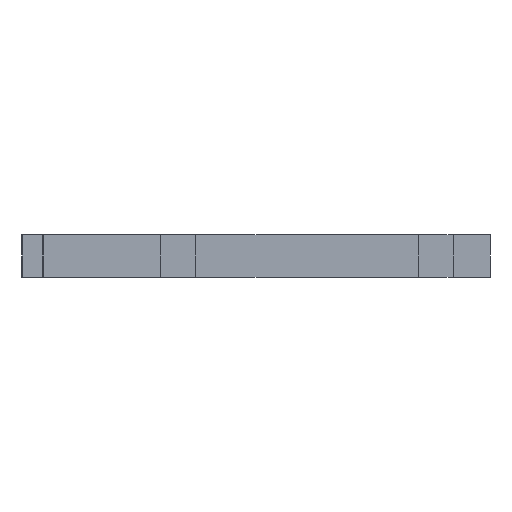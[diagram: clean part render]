
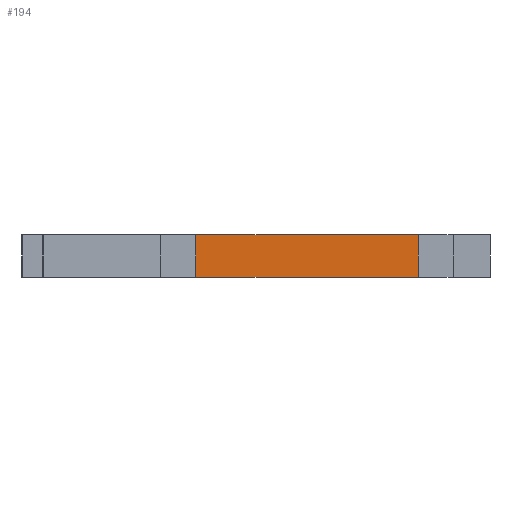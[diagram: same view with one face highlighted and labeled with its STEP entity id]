
A CAD part, left-side view. The second image highlights one B-rep face of the part: STEP entity #194.
In plain terms, the highlighted planar face has unit normal (-1, 0, 0).
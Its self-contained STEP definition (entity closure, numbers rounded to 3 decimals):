
#42 = CARTESIAN_POINT ( 'NONE',  ( -272., -92.3, 0. ) ) ;
#55 = CARTESIAN_POINT ( 'NONE',  ( -272., -92.3, 0. ) ) ;
#92 = CARTESIAN_POINT ( 'NONE',  ( -272., -40.5, 10. ) ) ;
#94 = ORIENTED_EDGE ( 'NONE', *, *, #1361, .F. ) ;
#183 = DIRECTION ( 'NONE',  ( 0., 0., -1. ) ) ;
#186 = DIRECTION ( 'NONE',  ( 1., 0., 0. ) ) ;
#194 = ADVANCED_FACE ( 'NONE', ( #777 ), #588, .F. ) ;
#204 = ORIENTED_EDGE ( 'NONE', *, *, #1262, .T. ) ;
#215 = LINE ( 'NONE', #584, #1675 ) ;
#305 = VERTEX_POINT ( 'NONE', #1258 ) ;
#363 = LINE ( 'NONE', #518, #1322 ) ;
#365 = LINE ( 'NONE', #593, #1323 ) ;
#408 = AXIS2_PLACEMENT_3D ( 'NONE', #729, #186, #1535 ) ;
#518 = CARTESIAN_POINT ( 'NONE',  ( -272., -92.3, 10. ) ) ;
#584 = CARTESIAN_POINT ( 'NONE',  ( -272., -40.5, 10. ) ) ;
#588 = PLANE ( 'NONE',  #408 ) ;
#593 = CARTESIAN_POINT ( 'NONE',  ( -272., -92.3, 10. ) ) ;
#657 = DIRECTION ( 'NONE',  ( 0., 0., -1. ) ) ;
#729 = CARTESIAN_POINT ( 'NONE',  ( -272., -92.3, 10. ) ) ;
#777 = FACE_OUTER_BOUND ( 'NONE', #1165, .T. ) ;
#781 = ORIENTED_EDGE ( 'NONE', *, *, #787, .T. ) ;
#787 = EDGE_CURVE ( 'NONE', #1475, #305, #215, .T. ) ;
#803 = VERTEX_POINT ( 'NONE', #1545 ) ;
#822 = VERTEX_POINT ( 'NONE', #55 ) ;
#898 = VECTOR ( 'NONE', #992, 1000. ) ;
#992 = DIRECTION ( 'NONE',  ( 0., -1., 0. ) ) ;
#1158 = DIRECTION ( 'NONE',  ( 0., -1., 0. ) ) ;
#1165 = EDGE_LOOP ( 'NONE', ( #204, #1601, #94, #781 ) ) ;
#1258 = CARTESIAN_POINT ( 'NONE',  ( -272., -40.5, 0. ) ) ;
#1262 = EDGE_CURVE ( 'NONE', #305, #822, #1451, .T. ) ;
#1322 = VECTOR ( 'NONE', #657, 1000. ) ;
#1323 = VECTOR ( 'NONE', #1158, 1000. ) ;
#1361 = EDGE_CURVE ( 'NONE', #1475, #803, #365, .T. ) ;
#1451 = LINE ( 'NONE', #42, #898 ) ;
#1475 = VERTEX_POINT ( 'NONE', #92 ) ;
#1535 = DIRECTION ( 'NONE',  ( 0., 0., -1. ) ) ;
#1545 = CARTESIAN_POINT ( 'NONE',  ( -272., -92.3, 10. ) ) ;
#1601 = ORIENTED_EDGE ( 'NONE', *, *, #1628, .F. ) ;
#1628 = EDGE_CURVE ( 'NONE', #803, #822, #363, .T. ) ;
#1675 = VECTOR ( 'NONE', #183, 1000. ) ;
